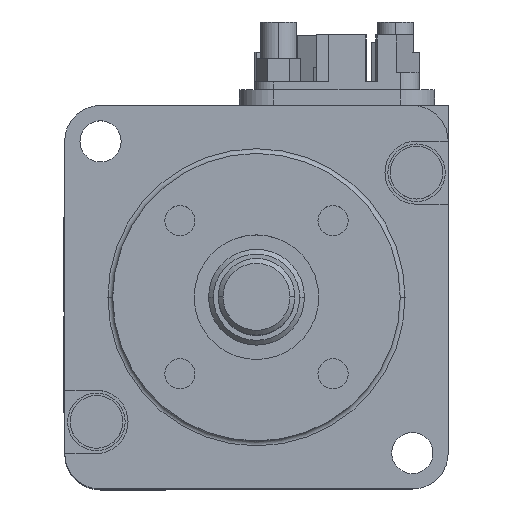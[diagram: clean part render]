
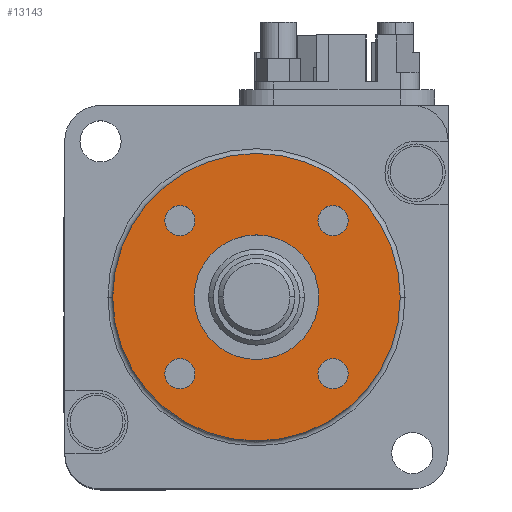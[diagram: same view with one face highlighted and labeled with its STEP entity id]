
A CAD part, top view. The second image highlights one B-rep face of the part: STEP entity #13143.
In plain terms, the highlighted planar face has unit normal (0, 0, 1).
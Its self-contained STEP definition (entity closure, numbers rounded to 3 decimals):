
#271 = ORIENTED_EDGE ( 'NONE', *, *, #5254, .T. ) ;
#302 = EDGE_CURVE ( 'NONE', #2154, #2619, #2817, .T. ) ;
#397 = ORIENTED_EDGE ( 'NONE', *, *, #302, .F. ) ;
#443 = AXIS2_PLACEMENT_3D ( 'NONE', #14255, #6790, #15521 ) ;
#779 = CIRCLE ( 'NONE', #12277, 1.574 ) ;
#829 = DIRECTION ( 'NONE',  ( 0., 0., 1. ) ) ;
#918 = DIRECTION ( 'NONE',  ( 0., 0., 1. ) ) ;
#1134 = VERTEX_POINT ( 'NONE', #3924 ) ;
#1276 = DIRECTION ( 'NONE',  ( 1., 0., 0. ) ) ;
#1707 = DIRECTION ( 'NONE',  ( 0., 0., 1. ) ) ;
#1826 = VERTEX_POINT ( 'NONE', #9312 ) ;
#2030 = EDGE_LOOP ( 'NONE', ( #9614, #13593 ) ) ;
#2123 = CARTESIAN_POINT ( 'NONE',  ( -7.99, 7.99, 2.5 ) ) ;
#2154 = VERTEX_POINT ( 'NONE', #15875 ) ;
#2240 = EDGE_CURVE ( 'NONE', #2619, #2154, #779, .T. ) ;
#2248 = VERTEX_POINT ( 'NONE', #11067 ) ;
#2449 = FACE_BOUND ( 'NONE', #12669, .T. ) ;
#2462 = ORIENTED_EDGE ( 'NONE', *, *, #7636, .T. ) ;
#2496 = EDGE_CURVE ( 'NONE', #8631, #2248, #15435, .T. ) ;
#2603 = ORIENTED_EDGE ( 'NONE', *, *, #12574, .F. ) ;
#2619 = VERTEX_POINT ( 'NONE', #9771 ) ;
#2761 = CARTESIAN_POINT ( 'NONE',  ( -6.416, -7.99, 2.5 ) ) ;
#2817 = CIRCLE ( 'NONE', #14132, 1.574 ) ;
#3229 = FACE_BOUND ( 'NONE', #10074, .T. ) ;
#3367 = CARTESIAN_POINT ( 'NONE',  ( 15., 0., 2.5 ) ) ;
#3389 = DIRECTION ( 'NONE',  ( 1., 0., 0. ) ) ;
#3620 = ORIENTED_EDGE ( 'NONE', *, *, #11521, .F. ) ;
#3650 = DIRECTION ( 'NONE',  ( 1., 0., 0. ) ) ;
#3924 = CARTESIAN_POINT ( 'NONE',  ( -9.564, -7.99, 2.5 ) ) ;
#4176 = DIRECTION ( 'NONE',  ( 0., 0., 1. ) ) ;
#4276 = DIRECTION ( 'NONE',  ( 0., 0., 1. ) ) ;
#4759 = AXIS2_PLACEMENT_3D ( 'NONE', #12366, #4889, #13585 ) ;
#4889 = DIRECTION ( 'NONE',  ( 0., 0., 1. ) ) ;
#5179 = ORIENTED_EDGE ( 'NONE', *, *, #5351, .F. ) ;
#5254 = EDGE_CURVE ( 'NONE', #15814, #13322, #6861, .T. ) ;
#5350 = CIRCLE ( 'NONE', #7787, 15. ) ;
#5351 = EDGE_CURVE ( 'NONE', #1826, #13120, #5877, .T. ) ;
#5439 = CIRCLE ( 'NONE', #15081, 1.574 ) ;
#5474 = PLANE ( 'NONE',  #443 ) ;
#5766 = FACE_OUTER_BOUND ( 'NONE', #6595, .T. ) ;
#5814 = DIRECTION ( 'NONE',  ( 0., 0., 1. ) ) ;
#5877 = CIRCLE ( 'NONE', #6743, 1.574 ) ;
#5900 = AXIS2_PLACEMENT_3D ( 'NONE', #8318, #829, #9592 ) ;
#6101 = CARTESIAN_POINT ( 'NONE',  ( -6.5, 0., 2.5 ) ) ;
#6170 = CARTESIAN_POINT ( 'NONE',  ( -6.416, 7.99, 2.5 ) ) ;
#6595 = EDGE_LOOP ( 'NONE', ( #2462, #271 ) ) ;
#6650 = CIRCLE ( 'NONE', #13499, 1.574 ) ;
#6682 = CARTESIAN_POINT ( 'NONE',  ( 9.564, 7.99, 2.5 ) ) ;
#6743 = AXIS2_PLACEMENT_3D ( 'NONE', #6937, #15669, #8174 ) ;
#6790 = DIRECTION ( 'NONE',  ( 0., 0., 1. ) ) ;
#6861 = CIRCLE ( 'NONE', #7886, 15. ) ;
#6937 = CARTESIAN_POINT ( 'NONE',  ( 7.99, 7.99, 2.5 ) ) ;
#7126 = ORIENTED_EDGE ( 'NONE', *, *, #8811, .F. ) ;
#7128 = CARTESIAN_POINT ( 'NONE',  ( -9.564, 7.99, 2.5 ) ) ;
#7296 = CIRCLE ( 'NONE', #5900, 6.5 ) ;
#7356 = CARTESIAN_POINT ( 'NONE',  ( 7.99, -7.99, 2.5 ) ) ;
#7636 = EDGE_CURVE ( 'NONE', #13322, #15814, #5350, .T. ) ;
#7787 = AXIS2_PLACEMENT_3D ( 'NONE', #11725, #4276, #12991 ) ;
#7886 = AXIS2_PLACEMENT_3D ( 'NONE', #9187, #1707, #10432 ) ;
#8174 = DIRECTION ( 'NONE',  ( 1., 0., 0. ) ) ;
#8296 = AXIS2_PLACEMENT_3D ( 'NONE', #13252, #5814, #14514 ) ;
#8318 = CARTESIAN_POINT ( 'NONE',  ( 0., 0., 2.5 ) ) ;
#8403 = CARTESIAN_POINT ( 'NONE',  ( 7.99, 7.99, 2.5 ) ) ;
#8582 = DIRECTION ( 'NONE',  ( 1., 0., 0. ) ) ;
#8631 = VERTEX_POINT ( 'NONE', #6101 ) ;
#8669 = FACE_BOUND ( 'NONE', #13129, .T. ) ;
#8738 = DIRECTION ( 'NONE',  ( 0., 0., 1. ) ) ;
#8811 = EDGE_CURVE ( 'NONE', #11025, #1134, #11942, .T. ) ;
#8962 = AXIS2_PLACEMENT_3D ( 'NONE', #11639, #4176, #12888 ) ;
#9187 = CARTESIAN_POINT ( 'NONE',  ( 0., 0., 2.5 ) ) ;
#9312 = CARTESIAN_POINT ( 'NONE',  ( 6.416, 7.99, 2.5 ) ) ;
#9483 = CARTESIAN_POINT ( 'NONE',  ( 7.99, -7.99, 2.5 ) ) ;
#9592 = DIRECTION ( 'NONE',  ( 1., 0., 0. ) ) ;
#9608 = CIRCLE ( 'NONE', #14571, 1.574 ) ;
#9614 = ORIENTED_EDGE ( 'NONE', *, *, #10924, .F. ) ;
#9689 = DIRECTION ( 'NONE',  ( 1., 0., 0. ) ) ;
#9771 = CARTESIAN_POINT ( 'NONE',  ( 9.564, -7.99, 2.5 ) ) ;
#10074 = EDGE_LOOP ( 'NONE', ( #10200, #397 ) ) ;
#10200 = ORIENTED_EDGE ( 'NONE', *, *, #2240, .F. ) ;
#10335 = ORIENTED_EDGE ( 'NONE', *, *, #2496, .F. ) ;
#10432 = DIRECTION ( 'NONE',  ( 1., 0., 0. ) ) ;
#10864 = DIRECTION ( 'NONE',  ( 0., 0., 1. ) ) ;
#10924 = EDGE_CURVE ( 'NONE', #12730, #12614, #6650, .T. ) ;
#11025 = VERTEX_POINT ( 'NONE', #2761 ) ;
#11067 = CARTESIAN_POINT ( 'NONE',  ( 6.5, 0., 2.5 ) ) ;
#11427 = EDGE_CURVE ( 'NONE', #13120, #1826, #5439, .T. ) ;
#11521 = EDGE_CURVE ( 'NONE', #1134, #11025, #15974, .T. ) ;
#11639 = CARTESIAN_POINT ( 'NONE',  ( -7.99, -7.99, 2.5 ) ) ;
#11725 = CARTESIAN_POINT ( 'NONE',  ( 0., 0., 2.5 ) ) ;
#11942 = CIRCLE ( 'NONE', #8962, 1.574 ) ;
#12008 = FACE_BOUND ( 'NONE', #15948, .T. ) ;
#12277 = AXIS2_PLACEMENT_3D ( 'NONE', #7356, #16110, #8582 ) ;
#12366 = CARTESIAN_POINT ( 'NONE',  ( -7.99, -7.99, 2.5 ) ) ;
#12574 = EDGE_CURVE ( 'NONE', #2248, #8631, #7296, .T. ) ;
#12614 = VERTEX_POINT ( 'NONE', #7128 ) ;
#12669 = EDGE_LOOP ( 'NONE', ( #7126, #3620 ) ) ;
#12730 = VERTEX_POINT ( 'NONE', #6170 ) ;
#12888 = DIRECTION ( 'NONE',  ( 1., 0., 0. ) ) ;
#12991 = DIRECTION ( 'NONE',  ( 1., 0., 0. ) ) ;
#13120 = VERTEX_POINT ( 'NONE', #6682 ) ;
#13129 = EDGE_LOOP ( 'NONE', ( #2603, #10335 ) ) ;
#13143 = ADVANCED_FACE ( 'NONE', ( #3229, #2449, #15322, #12008, #8669, #5766 ), #5474, .T. ) ;
#13252 = CARTESIAN_POINT ( 'NONE',  ( 0., 0., 2.5 ) ) ;
#13322 = VERTEX_POINT ( 'NONE', #15950 ) ;
#13499 = AXIS2_PLACEMENT_3D ( 'NONE', #16246, #8738, #1276 ) ;
#13585 = DIRECTION ( 'NONE',  ( 1., 0., 0. ) ) ;
#13593 = ORIENTED_EDGE ( 'NONE', *, *, #13740, .F. ) ;
#13740 = EDGE_CURVE ( 'NONE', #12614, #12730, #9608, .T. ) ;
#14132 = AXIS2_PLACEMENT_3D ( 'NONE', #9483, #16219, #3650 ) ;
#14255 = CARTESIAN_POINT ( 'NONE',  ( 0., 0., 2.5 ) ) ;
#14503 = ORIENTED_EDGE ( 'NONE', *, *, #11427, .F. ) ;
#14514 = DIRECTION ( 'NONE',  ( 1., 0., 0. ) ) ;
#14571 = AXIS2_PLACEMENT_3D ( 'NONE', #2123, #10864, #3389 ) ;
#15081 = AXIS2_PLACEMENT_3D ( 'NONE', #8403, #918, #9689 ) ;
#15322 = FACE_BOUND ( 'NONE', #2030, .T. ) ;
#15435 = CIRCLE ( 'NONE', #8296, 6.5 ) ;
#15521 = DIRECTION ( 'NONE',  ( 1., 0., 0. ) ) ;
#15669 = DIRECTION ( 'NONE',  ( 0., 0., 1. ) ) ;
#15814 = VERTEX_POINT ( 'NONE', #3367 ) ;
#15875 = CARTESIAN_POINT ( 'NONE',  ( 6.416, -7.99, 2.5 ) ) ;
#15948 = EDGE_LOOP ( 'NONE', ( #14503, #5179 ) ) ;
#15950 = CARTESIAN_POINT ( 'NONE',  ( -15., 0., 2.5 ) ) ;
#15974 = CIRCLE ( 'NONE', #4759, 1.574 ) ;
#16110 = DIRECTION ( 'NONE',  ( 0., 0., 1. ) ) ;
#16219 = DIRECTION ( 'NONE',  ( 0., 0., 1. ) ) ;
#16246 = CARTESIAN_POINT ( 'NONE',  ( -7.99, 7.99, 2.5 ) ) ;
